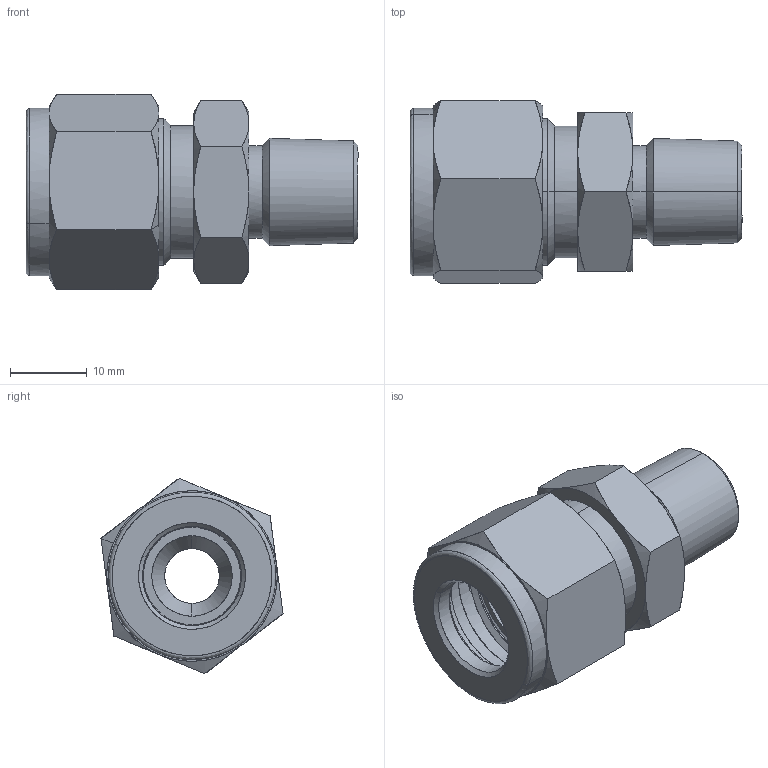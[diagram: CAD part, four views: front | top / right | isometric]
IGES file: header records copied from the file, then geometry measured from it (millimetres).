
Start section: Comment
Global section: file name: SMC8-4N.igs; native system:  By UGS Corp.; preprocessor: XPlus GENERIC/IGES 3.0; author: Author; organization: Title; date: 20100113.145048; units: millimetre
Bounding box: 43.24 x 23.72 x 25.44 mm (x, y, z)
Surface area: 6417.5 mm2 (no closed solid volume)
Topology: 0 solids, 0 shells, 118 faces, 683 edges, 680 vertices
Faces by surface type: bspline 118
